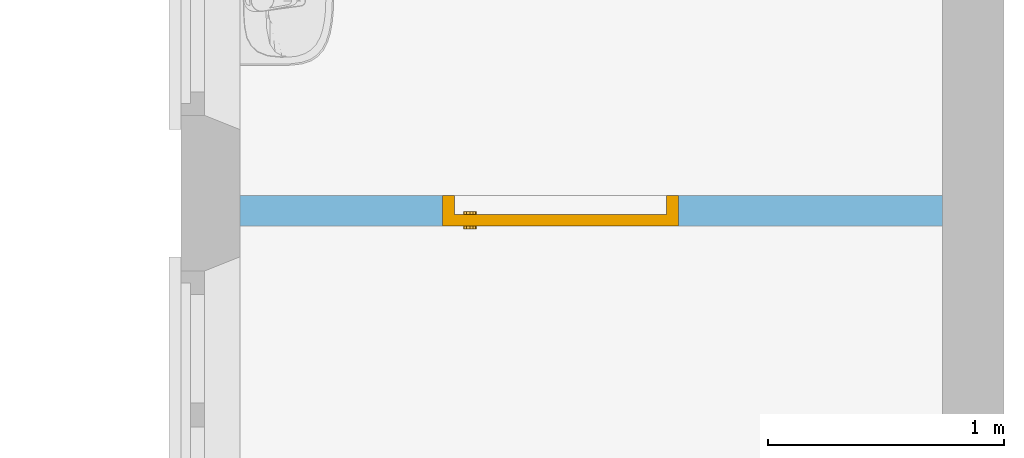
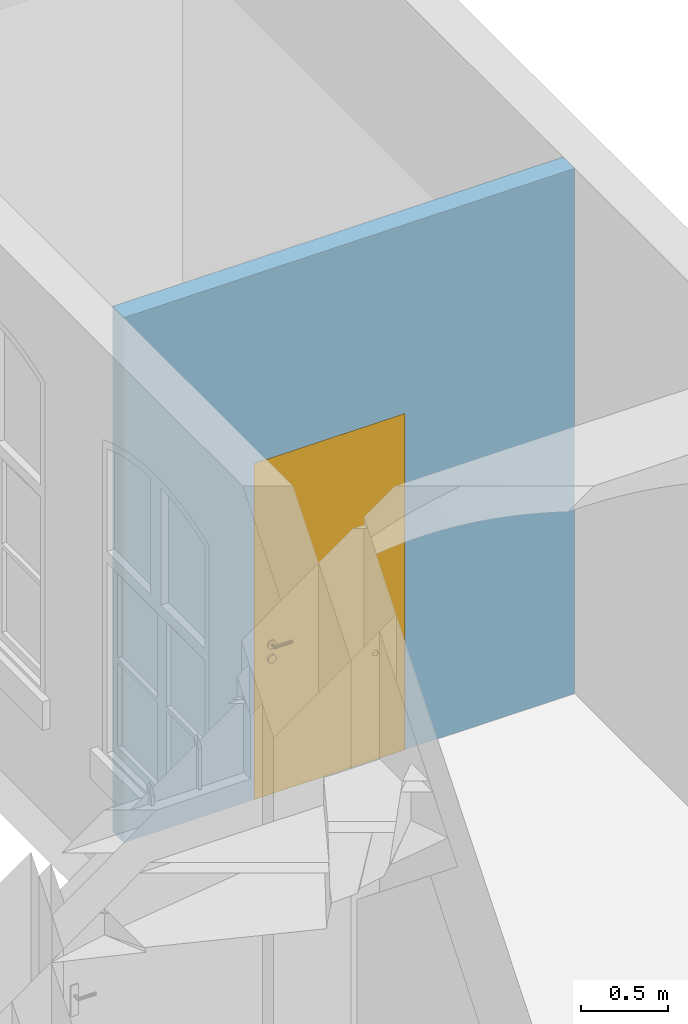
"""IFC4 building model written with IfcOpenShell, lengths in metres."""

from ifc_helpers import new_model, entity, si_unit, converted_unit, derived_unit, frame, frame_2d, origin, origin_with_axes, place, context, subcontext, project, spatial, polyline, rectangle, outline, extrude, faceted_brep, source, transform, mapped, material, layer, layer_set, layer_usage, type_object, element, fill, save


model = new_model("IFC4")

# Units and contexts
model_context = context("Model", 3, precision=1e-05, world=origin())
body_context = subcontext(model_context, "Body", "Model", "MODEL_VIEW")
ifc_project = project(units=[si_unit("LENGTHUNIT", "METRE"), si_unit("AREAUNIT", "SQUARE_METRE"), si_unit("VOLUMEUNIT", "CUBIC_METRE"), si_unit("MASSUNIT", "GRAM", prefix="KILO"), converted_unit("PLANEANGLEUNIT", "DEGREE", entity("IfcPlaneAngleMeasure", 0.0174532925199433), si_unit("PLANEANGLEUNIT", "RADIAN"), dimensions=[0, 0, 0, 0, 0, 0, 0]), derived_unit("THERMALTRANSMITTANCEUNIT", [(si_unit("POWERUNIT", "WATT"), 1), (si_unit("THERMODYNAMICTEMPERATUREUNIT", "KELVIN"), -1), (si_unit("LENGTHUNIT", "METRE"), -2)]), derived_unit("VOLUMETRICFLOWRATEUNIT", [(si_unit("LENGTHUNIT", "METRE"), 3), (converted_unit("TIMEUNIT", "hour", entity("IfcTimeMeasure", 3600.0), si_unit("TIMEUNIT", "SECOND"), dimensions=[0, 0, 1, 0, 0, 0, 0]), -1), (si_unit("LENGTHUNIT", "METRE"), -1)])], contexts=[model_context])

# Building, storeys
building_placement = place(None, origin())
building = spatial("IfcBuilding", under=ifc_project, at=building_placement, Name="Bestandsgebäude A - Sporthalle / Wohnhaus (TB 100-499)   ANPASSEN !!!", CompositionType="ELEMENT")
storey_1_placement = place(building_placement, origin())
storey_1 = spatial("IfcBuildingStorey", under=building, at=storey_1_placement, Name="Geb. A Erdgeschoss (TB 200-249)", CompositionType="ELEMENT", Elevation=0.0)
storey_2_placement = place(storey_1_placement, origin())
storey_2 = spatial("IfcBuildingStorey", under=storey_1, at=storey_2_placement, Name="Architektur (TB 200-209)", CompositionType="PARTIAL")

# Wall, opening, door
ifc_material = material(Name="masonry")
ifc_layer = layer(ifc_material, 0.13)
ifc_layer_set = layer_set([ifc_layer])
ifc_layer_usage = layer_usage(ifc_layer_set, "AXIS2", "POSITIVE", 0.0)
wall_placement = place(storey_2_placement, frame((-0.259999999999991, 11.61, 0.0), z_axis=(0.0, 0.0, 1.0), x_axis=(-1.0, 2.44159651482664e-15, 0.0)))
wall = element("IfcWall", 1, at=wall_placement, inside=storey_2, material=ifc_layer_usage, Name="masonry load-bearing", PredefinedType="USERDEFINED", context=body_context, shape_type="SweptSolid", body=[
    extrude(rectangle(XDim=2.98000000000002, YDim=0.13, at=frame_2d((1.49000000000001, 0.065), x_axis=(1.0, 0.0))), origin_with_axes(), (0.0, 0.0, 1.0), 3.67),
])
opening_placement = place(wall_placement, frame((1.12000000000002, 0.0, 0.0), z_axis=(-1.74902827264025e-15, 1.0, 0.0), x_axis=(0.0, 0.0, 1.0)))
opening = element("IfcOpeningElement", 2, at=opening_placement, cuts=wall, Name="Door opening", PredefinedType="OPENING", context=body_context, shape_type="SweptSolid", body=[
    extrude(outline(polyline([(2.35, 0.999999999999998), (2.35, 0.0), (0.0, 0.0), (0.0, 0.999999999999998), (2.35, 0.999999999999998)])), origin_with_axes(), (0.0, 0.0, 1.0), 0.13),
])
door_type = type_object("IfcDoorType", Name="door", OperationType="SINGLE_SWING_LEFT", ParameterTakesPrecedence=False, PredefinedType="DOOR")
shared_shape = source(origin_with_axes(), body_context, "Body", "Brep", [
    faceted_brep([(0.0, 0.13, 2.35), (0.0, 0.13, 0.0), (0.0499999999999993, 0.13, 0.0), (0.0499999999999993, 0.13, 2.35), (0.0, 0.0, 0.0), (0.0, 0.0, 2.35), (0.0499999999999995, 0.0, 2.35), (0.0499999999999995, 0.0, 0.0)], [[[0, 1, 2, 3]], [[4, 5, 6, 7]], [[1, 0, 5, 4]], [[2, 1, 4, 7]], [[3, 2, 7, 6]], [[0, 3, 6, 5]]], orient=[[False], [False], [False], [False], [False], [False]]),
    faceted_brep([(0.949999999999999, 0.130000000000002, 2.35), (0.949999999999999, 0.130000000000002, 0.0), (0.999999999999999, 0.130000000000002, 0.0), (0.999999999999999, 0.130000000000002, 2.35), (0.949999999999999, 0.0, 0.0), (0.949999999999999, 0.0, 2.35), (0.999999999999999, 0.0, 2.35), (0.999999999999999, 0.0, 0.0)], [[[0, 1, 2, 3]], [[4, 5, 6, 7]], [[1, 0, 5, 4]], [[2, 1, 4, 7]], [[3, 2, 7, 6]], [[0, 3, 6, 5]]], orient=[[False], [False], [False], [False], [False], [False]]),
    faceted_brep([(0.0499999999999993, 0.13, 2.35), (0.0499999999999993, 0.13, 2.3), (0.949999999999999, 0.130000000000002, 2.3), (0.949999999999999, 0.130000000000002, 2.35), (0.0499999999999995, 0.0, 2.3), (0.0499999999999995, 0.0, 2.35), (0.949999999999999, 0.0, 2.35), (0.949999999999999, 0.0, 2.3)], [[[0, 1, 2, 3]], [[4, 5, 6, 7]], [[1, 0, 5, 4]], [[2, 1, 4, 7]], [[3, 2, 7, 6]], [[0, 3, 6, 5]]], orient=[[False], [False], [False], [False], [False], [False]]),
    faceted_brep([(0.0499999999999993, 0.13, 2.3), (0.0499999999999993, 0.13, 0.0), (0.949999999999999, 0.130000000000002, 0.0), (0.949999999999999, 0.130000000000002, 2.3), (0.0499999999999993, 0.08, 0.0), (0.0499999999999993, 0.08, 2.3), (0.949999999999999, 0.0800000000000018, 2.3), (0.949999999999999, 0.0800000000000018, 0.0)], [[[0, 1, 2, 3]], [[4, 5, 6, 7]], [[1, 0, 5, 4]], [[2, 1, 4, 7]], [[3, 2, 7, 6]], [[0, 3, 6, 5]]], orient=[[False], [False], [False], [False], [False], [False]]),
    faceted_brep([(0.908815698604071, 0.0800000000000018, 0.93625), (0.912499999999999, 0.0800000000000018, 0.95), (0.908815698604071, 0.0800000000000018, 0.96375), (0.898749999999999, 0.0800000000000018, 0.973815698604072), (0.884999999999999, 0.0800000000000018, 0.9775), (0.871249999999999, 0.0800000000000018, 0.973815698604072), (0.861184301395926, 0.0800000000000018, 0.96375), (0.857499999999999, 0.0800000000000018, 0.95), (0.861184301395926, 0.0800000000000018, 0.93625), (0.871249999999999, 0.0800000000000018, 0.926184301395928), (0.884999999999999, 0.0800000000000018, 0.9225), (0.898749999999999, 0.0800000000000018, 0.926184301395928), (0.912499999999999, 0.0675000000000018, 0.95), (0.908815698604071, 0.0675000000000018, 0.93625), (0.898749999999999, 0.0675000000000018, 0.926184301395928), (0.884999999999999, 0.0675000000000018, 0.9225), (0.871249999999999, 0.0675000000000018, 0.926184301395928), (0.861184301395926, 0.0675000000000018, 0.93625), (0.857499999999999, 0.0675000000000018, 0.95), (0.861184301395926, 0.0675000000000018, 0.96375), (0.871249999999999, 0.0675000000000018, 0.973815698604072), (0.884999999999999, 0.0675000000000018, 0.9775), (0.898749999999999, 0.0675000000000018, 0.973815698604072), (0.908815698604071, 0.0675000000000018, 0.96375)], [[[0, 1, 2, 3, 4, 5, 6, 7, 8, 9, 10, 11]], [[12, 13, 14, 15, 16, 17, 18, 19, 20, 21, 22, 23]], [[1, 0, 13, 12]], [[2, 1, 12, 23]], [[3, 2, 23, 22]], [[4, 3, 22, 21]], [[5, 4, 21, 20]], [[6, 5, 20, 19]], [[7, 6, 19, 18]], [[8, 7, 18, 17]], [[9, 8, 17, 16]], [[10, 9, 16, 15]], [[11, 10, 15, 14]], [[0, 11, 14, 13]]], orient=[[False], [False], [False], [False], [False], [False], [False], [False], [False], [False], [False], [False], [False], [False]]),
    faceted_brep([(0.908815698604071, 0.0800000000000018, 1.03625), (0.912499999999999, 0.0800000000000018, 1.05), (0.908815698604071, 0.0800000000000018, 1.06375), (0.898749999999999, 0.0800000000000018, 1.07381569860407), (0.884999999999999, 0.0800000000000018, 1.0775), (0.871249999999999, 0.0800000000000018, 1.07381569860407), (0.861184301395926, 0.0800000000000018, 1.06375), (0.857499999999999, 0.0800000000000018, 1.05), (0.861184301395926, 0.0800000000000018, 1.03625), (0.871249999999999, 0.0800000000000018, 1.02618430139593), (0.884999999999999, 0.0800000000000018, 1.0225), (0.898749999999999, 0.0800000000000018, 1.02618430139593), (0.912499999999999, 0.0675000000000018, 1.05), (0.908815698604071, 0.0675000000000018, 1.03625), (0.898749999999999, 0.0675000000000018, 1.02618430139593), (0.884999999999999, 0.0675000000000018, 1.0225), (0.871249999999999, 0.0675000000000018, 1.02618430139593), (0.861184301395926, 0.0675000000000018, 1.03625), (0.857499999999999, 0.0675000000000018, 1.05), (0.861184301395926, 0.0675000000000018, 1.06375), (0.871249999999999, 0.0675000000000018, 1.07381569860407), (0.884999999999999, 0.0675000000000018, 1.0775), (0.898749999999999, 0.0675000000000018, 1.07381569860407), (0.908815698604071, 0.0675000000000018, 1.06375)], [[[0, 1, 2, 3, 4, 5, 6, 7, 8, 9, 10, 11]], [[12, 13, 14, 15, 16, 17, 18, 19, 20, 21, 22, 23]], [[1, 0, 13, 12]], [[2, 1, 12, 23]], [[3, 2, 23, 22]], [[4, 3, 22, 21]], [[5, 4, 21, 20]], [[6, 5, 20, 19]], [[7, 6, 19, 18]], [[8, 7, 18, 17]], [[9, 8, 17, 16]], [[10, 9, 16, 15]], [[11, 10, 15, 14]], [[0, 11, 14, 13]]], orient=[[False], [False], [False], [False], [False], [False], [False], [False], [False], [False], [False], [False], [False], [False]]),
    faceted_brep([(0.884999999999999, 0.0800000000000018, 1.06), (0.879999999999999, 0.0800000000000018, 1.05866025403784), (0.876339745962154, 0.0800000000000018, 1.055), (0.874999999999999, 0.0800000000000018, 1.05), (0.876339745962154, 0.0800000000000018, 1.045), (0.879999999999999, 0.0800000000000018, 1.04133974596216), (0.884999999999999, 0.0800000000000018, 1.04), (0.889999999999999, 0.0800000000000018, 1.04133974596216), (0.893660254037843, 0.0800000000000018, 1.045), (0.894999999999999, 0.0800000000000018, 1.05), (0.893660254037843, 0.0800000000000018, 1.055), (0.889999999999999, 0.0800000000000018, 1.05866025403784), (0.889999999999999, 0.035, 1.05866025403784), (0.884999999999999, 0.04, 1.06), (0.893660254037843, 0.0313397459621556, 1.055), (0.894999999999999, 0.03, 1.05), (0.893660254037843, 0.0313397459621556, 1.045), (0.889999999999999, 0.035, 1.04133974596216), (0.884999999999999, 0.04, 1.04), (0.879999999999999, 0.045, 1.04133974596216), (0.876339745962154, 0.0486602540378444, 1.045), (0.874999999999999, 0.0500000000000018, 1.05), (0.876339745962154, 0.0486602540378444, 1.055), (0.879999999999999, 0.045, 1.05866025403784), (0.769999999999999, 0.04, 1.06), (0.769999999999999, 0.035, 1.05866025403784), (0.769999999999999, 0.0313397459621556, 1.055), (0.769999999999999, 0.03, 1.05), (0.769999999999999, 0.0313397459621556, 1.045), (0.769999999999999, 0.035, 1.04133974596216), (0.769999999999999, 0.04, 1.04), (0.769999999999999, 0.045, 1.04133974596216), (0.769999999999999, 0.0486602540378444, 1.045), (0.769999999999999, 0.0500000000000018, 1.05), (0.769999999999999, 0.0486602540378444, 1.055), (0.769999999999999, 0.045, 1.05866025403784)], [[[0, 1, 2, 3, 4, 5, 6, 7, 8, 9, 10, 11]], [[0, 11, 12, 13]], [[11, 10, 14, 12]], [[10, 9, 15, 14]], [[9, 8, 16, 15]], [[8, 7, 17, 16]], [[7, 6, 18, 17]], [[6, 5, 19, 18]], [[5, 4, 20, 19]], [[4, 3, 21, 20]], [[3, 2, 22, 21]], [[2, 1, 23, 22]], [[1, 0, 13, 23]], [[24, 25, 26, 27, 28, 29, 30, 31, 32, 33, 34, 35]], [[13, 12, 25, 24]], [[12, 14, 26, 25]], [[14, 15, 27, 26]], [[15, 16, 28, 27]], [[16, 17, 29, 28]], [[17, 18, 30, 29]], [[18, 19, 31, 30]], [[19, 20, 32, 31]], [[20, 21, 33, 32]], [[21, 22, 34, 33]], [[22, 23, 35, 34]], [[23, 13, 24, 35]]], orient=[[False], [False], [False], [False], [False], [False], [False], [False], [False], [False], [False], [False], [False], [False], [False], [False], [False], [False], [False], [False], [False], [False], [False], [False], [False], [False]]),
    faceted_brep([(0.908815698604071, 0.130000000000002, 0.93625), (0.898749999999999, 0.130000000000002, 0.926184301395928), (0.884999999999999, 0.130000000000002, 0.9225), (0.871249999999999, 0.130000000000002, 0.926184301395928), (0.861184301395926, 0.130000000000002, 0.93625), (0.857499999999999, 0.130000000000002, 0.95), (0.861184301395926, 0.130000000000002, 0.96375), (0.871249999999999, 0.130000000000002, 0.973815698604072), (0.884999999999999, 0.130000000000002, 0.9775), (0.898749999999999, 0.130000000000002, 0.973815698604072), (0.908815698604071, 0.130000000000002, 0.96375), (0.912499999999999, 0.130000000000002, 0.95), (0.912499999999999, 0.142500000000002, 0.95), (0.908815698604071, 0.142500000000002, 0.96375), (0.898749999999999, 0.142500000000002, 0.973815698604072), (0.884999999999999, 0.142500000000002, 0.9775), (0.871249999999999, 0.142500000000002, 0.973815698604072), (0.861184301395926, 0.142500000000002, 0.96375), (0.857499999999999, 0.142500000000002, 0.95), (0.861184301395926, 0.142500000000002, 0.93625), (0.871249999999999, 0.142500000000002, 0.926184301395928), (0.884999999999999, 0.142500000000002, 0.9225), (0.898749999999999, 0.142500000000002, 0.926184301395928), (0.908815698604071, 0.142500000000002, 0.93625)], [[[0, 1, 2, 3, 4, 5, 6, 7, 8, 9, 10, 11]], [[12, 13, 14, 15, 16, 17, 18, 19, 20, 21, 22, 23]], [[11, 12, 23, 0]], [[10, 13, 12, 11]], [[9, 14, 13, 10]], [[8, 15, 14, 9]], [[7, 16, 15, 8]], [[6, 17, 16, 7]], [[5, 18, 17, 6]], [[4, 19, 18, 5]], [[3, 20, 19, 4]], [[2, 21, 20, 3]], [[1, 22, 21, 2]], [[0, 23, 22, 1]]], orient=[[False], [False], [False], [False], [False], [False], [False], [False], [False], [False], [False], [False], [False], [False]]),
    faceted_brep([(0.908815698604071, 0.130000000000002, 1.03625), (0.898749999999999, 0.130000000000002, 1.02618430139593), (0.884999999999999, 0.130000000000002, 1.0225), (0.871249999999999, 0.130000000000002, 1.02618430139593), (0.861184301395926, 0.130000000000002, 1.03625), (0.857499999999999, 0.130000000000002, 1.05), (0.861184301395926, 0.130000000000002, 1.06375), (0.871249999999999, 0.130000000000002, 1.07381569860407), (0.884999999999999, 0.130000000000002, 1.0775), (0.898749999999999, 0.130000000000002, 1.07381569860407), (0.908815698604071, 0.130000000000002, 1.06375), (0.912499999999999, 0.130000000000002, 1.05), (0.912499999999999, 0.142500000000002, 1.05), (0.908815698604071, 0.142500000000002, 1.06375), (0.898749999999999, 0.142500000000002, 1.07381569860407), (0.884999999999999, 0.142500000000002, 1.0775), (0.871249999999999, 0.142500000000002, 1.07381569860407), (0.861184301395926, 0.142500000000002, 1.06375), (0.857499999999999, 0.142500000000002, 1.05), (0.861184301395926, 0.142500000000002, 1.03625), (0.871249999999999, 0.142500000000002, 1.02618430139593), (0.884999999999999, 0.142500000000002, 1.0225), (0.898749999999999, 0.142500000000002, 1.02618430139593), (0.908815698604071, 0.142500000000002, 1.03625)], [[[0, 1, 2, 3, 4, 5, 6, 7, 8, 9, 10, 11]], [[12, 13, 14, 15, 16, 17, 18, 19, 20, 21, 22, 23]], [[11, 12, 23, 0]], [[10, 13, 12, 11]], [[9, 14, 13, 10]], [[8, 15, 14, 9]], [[7, 16, 15, 8]], [[6, 17, 16, 7]], [[5, 18, 17, 6]], [[4, 19, 18, 5]], [[3, 20, 19, 4]], [[2, 21, 20, 3]], [[1, 22, 21, 2]], [[0, 23, 22, 1]]], orient=[[False], [False], [False], [False], [False], [False], [False], [False], [False], [False], [False], [False], [False], [False]]),
    faceted_brep([(0.884999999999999, 0.130000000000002, 1.06), (0.889999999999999, 0.130000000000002, 1.05866025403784), (0.893660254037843, 0.130000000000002, 1.055), (0.894999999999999, 0.130000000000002, 1.05), (0.893660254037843, 0.130000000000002, 1.045), (0.889999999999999, 0.130000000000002, 1.04133974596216), (0.884999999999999, 0.130000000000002, 1.04), (0.879999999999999, 0.130000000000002, 1.04133974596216), (0.876339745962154, 0.130000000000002, 1.045), (0.874999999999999, 0.130000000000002, 1.05), (0.876339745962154, 0.130000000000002, 1.055), (0.879999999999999, 0.130000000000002, 1.05866025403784), (0.884999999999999, 0.170000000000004, 1.06), (0.889999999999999, 0.175000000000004, 1.05866025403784), (0.893660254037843, 0.178660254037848, 1.055), (0.894999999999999, 0.180000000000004, 1.05), (0.893660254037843, 0.178660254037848, 1.045), (0.889999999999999, 0.175000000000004, 1.04133974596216), (0.884999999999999, 0.170000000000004, 1.04), (0.879999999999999, 0.165000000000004, 1.04133974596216), (0.876339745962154, 0.161339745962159, 1.045), (0.874999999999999, 0.160000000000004, 1.05), (0.876339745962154, 0.161339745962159, 1.055), (0.879999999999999, 0.165000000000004, 1.05866025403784), (0.769999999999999, 0.170000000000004, 1.06), (0.769999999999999, 0.165000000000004, 1.05866025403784), (0.769999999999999, 0.161339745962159, 1.055), (0.769999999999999, 0.160000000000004, 1.05), (0.769999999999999, 0.161339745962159, 1.045), (0.769999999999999, 0.165000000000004, 1.04133974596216), (0.769999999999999, 0.170000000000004, 1.04), (0.769999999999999, 0.175000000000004, 1.04133974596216), (0.769999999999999, 0.178660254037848, 1.045), (0.769999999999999, 0.180000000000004, 1.05), (0.769999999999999, 0.178660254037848, 1.055), (0.769999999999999, 0.175000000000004, 1.05866025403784)], [[[0, 1, 2, 3, 4, 5, 6, 7, 8, 9, 10, 11]], [[0, 12, 13, 1]], [[1, 13, 14, 2]], [[2, 14, 15, 3]], [[3, 15, 16, 4]], [[4, 16, 17, 5]], [[5, 17, 18, 6]], [[6, 18, 19, 7]], [[7, 19, 20, 8]], [[8, 20, 21, 9]], [[9, 21, 22, 10]], [[10, 22, 23, 11]], [[11, 23, 12, 0]], [[24, 25, 26, 27, 28, 29, 30, 31, 32, 33, 34, 35]], [[12, 24, 35, 13]], [[13, 35, 34, 14]], [[14, 34, 33, 15]], [[15, 33, 32, 16]], [[16, 32, 31, 17]], [[17, 31, 30, 18]], [[18, 30, 29, 19]], [[19, 29, 28, 20]], [[20, 28, 27, 21]], [[21, 27, 26, 22]], [[22, 26, 25, 23]], [[23, 25, 24, 12]]], orient=[[False], [False], [False], [False], [False], [False], [False], [False], [False], [False], [False], [False], [False], [False], [False], [False], [False], [False], [False], [False], [False], [False], [False], [False], [False], [False]]),
])
door_placement = place(opening_placement, frame((0.0, 0.0, 0.0), z_axis=(1.0, 0.0, 0.0), x_axis=(0.0, 1.0, -1.12642116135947e-15)))
door = element("IfcDoor", 3, at=door_placement, inside=storey_2, type_object=door_type, Name="door", OverallHeight=2.35, OverallWidth=1.0, PredefinedType="DOOR", context=body_context, shape_type="MappedRepresentation", body=[
    mapped(shared_shape, transform((0.0, 0.0, 0.0), x_axis=(1.0, 0.0, 0.0), y_axis=(0.0, 1.0, 0.0), z_axis=(0.0, 0.0, 1.0), scale=1.0)),
])
fill(opening, door)

save(model, "model.ifc")
